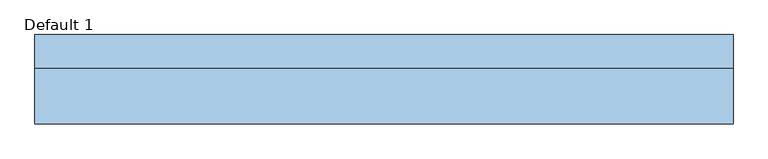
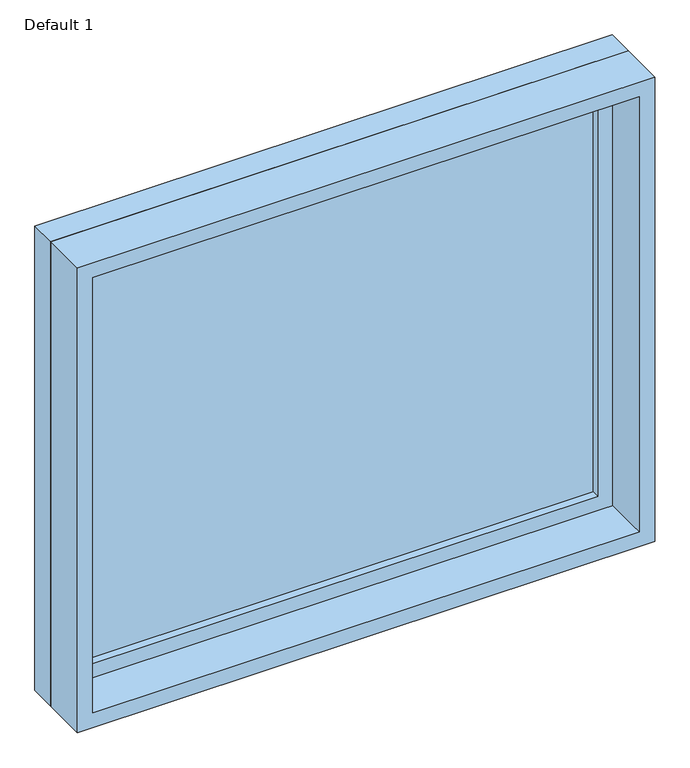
"""IFC4 building model written with IfcOpenShell, lengths in millimetres: window geometry, Planitar-Fixed : Default 1."""

from ifc_helpers import new_model, si_unit, frame, origin, place, context, project, spatial, polyline, outline, extrude, source, transform, mapped, element, save


def default_1_3ebde05d(model_context):
    return source(origin(), model_context, "Body", "SweptSolid", [
        extrude(outline(polyline([(1911.4, -577.9), (933.4, -577.9), (933.4, 577.9), (1911.4, 577.9), (1911.4, -577.9)]), holes=[polyline([(1867.4, -533.9), (1867.4, 533.9), (977.4, 533.9), (977.4, -533.9), (1867.4, -533.9)])]), frame((0.0, 32.5, 0.0), z_axis=(0.0, 1.0, 0.0), x_axis=(0.0, 0.0, 1.0)), (0.0, 0.0, 1.0), 44.0),
        extrude(outline(polyline([(1930.4, -596.9), (914.4, -596.9), (914.4, 596.9), (1930.4, 596.9), (1930.4, -596.9)]), holes=[polyline([(1911.4, -577.9), (1911.4, 577.9), (933.4, 577.9), (933.4, -577.9), (1911.4, -577.9)])]), frame((0.0, 32.5, 0.0), z_axis=(0.0, 1.0, 0.0), x_axis=(0.0, 0.0, 1.0)), (0.0, 0.0, 1.0), 56.7),
        extrude(outline(polyline([(1930.4, -596.9), (914.4, -596.9), (914.4, 596.9), (1930.4, 596.9), (1930.4, -596.9)]), holes=[polyline([(1898.4, -564.9), (1898.4, 564.9), (946.4, 564.9), (946.4, -564.9), (1898.4, -564.9)])]), frame((0.0, -63.2, 0.0), z_axis=(0.0, 1.0, 0.0), x_axis=(0.0, 0.0, 1.0)), (0.0, 0.0, 1.0), 95.7),
        extrude(outline(polyline([(-533.9, 60.5), (533.9, 60.5), (533.9, 48.5), (-533.9, 48.5), (-533.9, 60.5)])), frame((0.0, 0.0, 977.4), z_axis=(0.0, 0.0, 1.0), x_axis=(1.0, 0.0, 0.0)), (0.0, 0.0, 1.0), 890.0),
    ])


if __name__ == "__main__":
    model = new_model("IFC4")
    model_context = context("Model", 3, world=origin())
    ifc_project = project(units=[si_unit("LENGTHUNIT", "METRE", prefix="MILLI")], contexts=[model_context])
    site = spatial("IfcSite", under=ifc_project)
    building = spatial("IfcBuilding", under=site)
    placement = place(None, origin())
    default_1_shape = default_1_3ebde05d(model_context)
    element("IfcWindow", 1, ObjectType="Planitar-Fixed : Default 1", at=placement, inside=building, context=model_context, shape_type="MappedRepresentation", body=[
        mapped(default_1_shape, transform((0.0, 0.0, 0.0), x_axis=(1.0, 0.0, 0.0), y_axis=(0.0, 1.0, 0.0), z_axis=(0.0, 0.0, 1.0))),
    ])
    save(model, "model.ifc")
